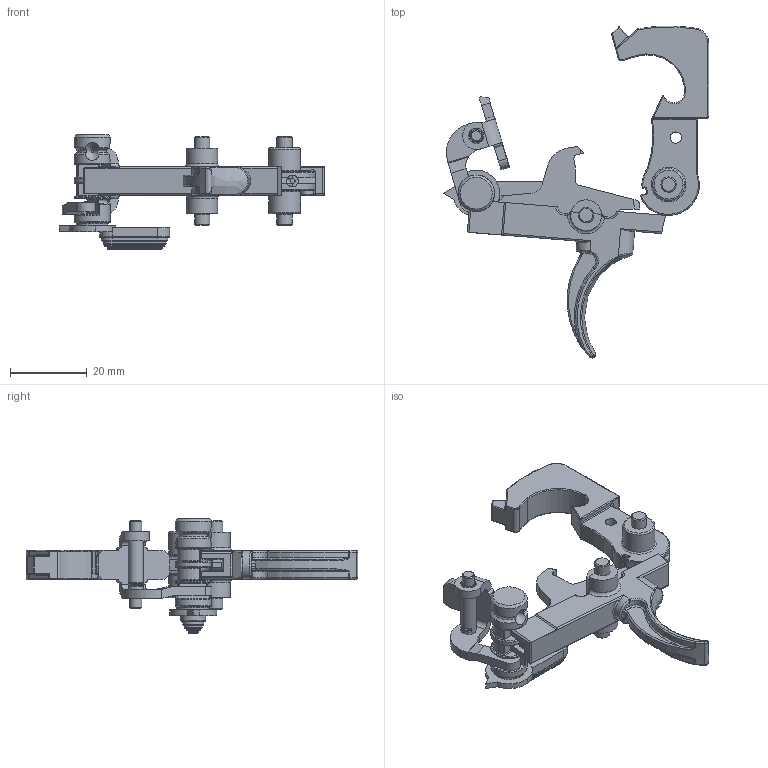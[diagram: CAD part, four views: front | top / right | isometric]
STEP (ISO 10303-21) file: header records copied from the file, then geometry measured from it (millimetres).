
FILE_DESCRIPTION(/* description */ (''),/* implementation_level */ '2;1');
FILE_NAME(/* name */ 'D:\Downloads\M16 FCG\step\M16 FCG Fosscad Full Auto Fired.stp',/* time_stamp */ '2019-01-20T20:16:39-06:00',/* author */ ('johne'),/* organization */ (''),/* preprocessor_version */ 'ST-DEVELOPER v16.13',/* originating_system */ 'Autodesk Inventor 2018',/* authorisation */ '');
FILE_SCHEMA (('AUTOMOTIVE_DESIGN { 1 0 10303 214 3 1 1 }'));
Length unit declared in the file: inch
Products named in the file (9): M16 FCG Fosscad; M16 Disco V2; Selector M16 V2; Auto Sear; Auto Trigger; M16 Hammer V6; Auto Sear Pin; Auto Sear Bushing; Hammer Pin
Assembly tree (9 placements, depth 2):
  M16 FCG Fosscad
    M16 Disco V2
    Selector M16 V2
    Auto Sear
    Auto Trigger
    M16 Hammer V6
    Auto Sear Pin
    Auto Sear Bushing
    Hammer Pin  x2
Bounding box: 68.95 x 86.28 x 29.74 mm (x, y, z)
Volume: 12147.6 mm3; surface area: 11227.7 mm2
Topology: 10 solids, 10 shells, 591 faces, 1439 edges, 856 vertices
Faces by surface type: cylinder 206, plane 173, torus 101, bspline 70, sphere 25, cone 16
Full cylindrical faces by diameter (mm): 2.946 x1, 3.023 x1, 3.124 x3, 3.188 x1, 3.95 x2, 3.962 x3, 3.969 x6, 4.013 x2, 4.216 x1, 7.986 x2, 8.255 x1, 8.28 x2, 9.474 x4
Entity records: 26117 total; most frequent: CARTESIAN_POINT 12580, DIRECTION 2848, ORIENTED_EDGE 2680, EDGE_CURVE 1340, AXIS2_PLACEMENT_3D 1142, VERTEX_POINT 831, EDGE_LOOP 659, FACE_OUTER_BOUND 582
